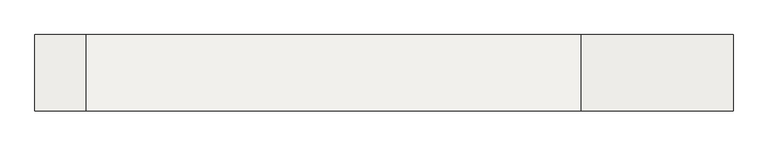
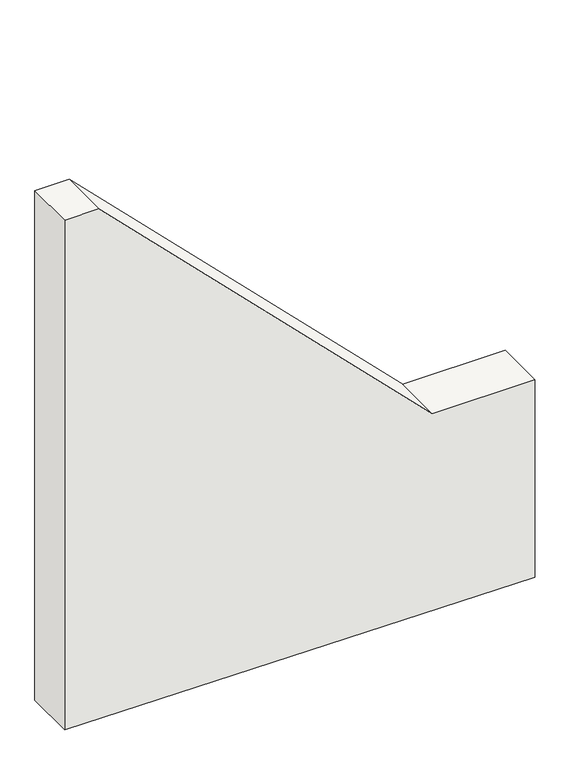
"""IFC4 building model written with IfcOpenShell, lengths in millimetres: slab geometry, Mur Nord Aval : Mur Nord Aval."""

from ifc_helpers import new_model, si_unit, frame, origin, place, context, project, spatial, polyline, outline, extrude, source, transform, mapped, element, save


def slab_52576638(model_context):
    return source(origin(), model_context, "Body", "SweptSolid", [
        extrude(outline(polyline([(153584.5987709, 29630.0), (154805.8454785, 29630.0), (154805.8454785, 29030.0), (156755.8454785, 27080.0), (156755.8454785, 26880.0), (153605.8454785, 26880.0), (153584.5987709, 29630.0)])), frame((0.0, 1500.0, 0.0), z_axis=(0.0, 1.0, 0.0), x_axis=(0.0, 0.0, 1.0)), (0.0, 0.0, 1.0), 300.0),
    ])


if __name__ == "__main__":
    model = new_model("IFC4")
    model_context = context("Model", 3, world=origin())
    ifc_project = project(units=[si_unit("LENGTHUNIT", "METRE", prefix="MILLI")], contexts=[model_context])
    site = spatial("IfcSite", under=ifc_project)
    building = spatial("IfcBuilding", under=site)
    placement = place(None, origin())
    slab_shape = slab_52576638(model_context)
    element("IfcSlab", 1, ObjectType="Mur Nord Aval : Mur Nord Aval", at=placement, inside=building, context=model_context, shape_type="MappedRepresentation", body=[
        mapped(slab_shape, transform((0.0, 0.0, 0.0), x_axis=(1.0, 0.0, 0.0), y_axis=(0.0, 1.0, 0.0), z_axis=(0.0, 0.0, 1.0))),
    ])
    save(model, "model.ifc")
